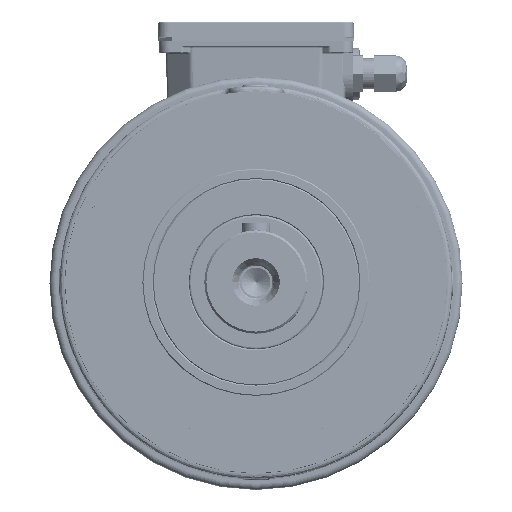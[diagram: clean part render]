
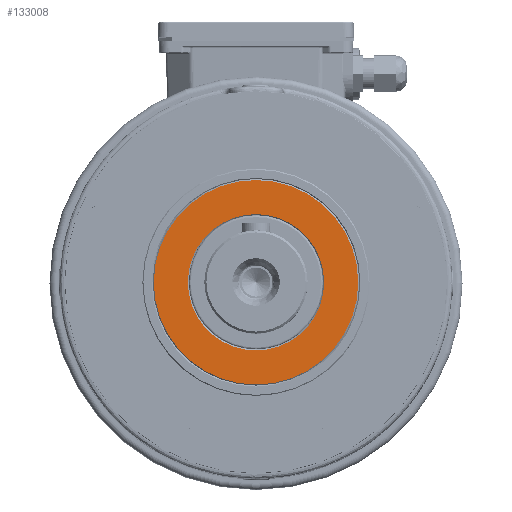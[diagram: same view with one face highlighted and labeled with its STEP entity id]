
A CAD part, top view. The second image highlights one B-rep face of the part: STEP entity #133008.
In plain terms, the highlighted planar face has unit normal (0, 0, 1) as drawn and (0, 0, -1) by its records, which use the part's own axes.
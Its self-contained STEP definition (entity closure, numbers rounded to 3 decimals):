
#19712 = DIRECTION ( 'NONE',  ( 1., 0., 0. ) ) ;
#19739 = DIRECTION ( 'NONE',  ( 0., 0., 1. ) ) ;
#19752 = CARTESIAN_POINT ( 'NONE',  ( 0., 0., 0. ) ) ;
#19810 = DIRECTION ( 'NONE',  ( -1., 0., 0. ) ) ;
#19818 = DIRECTION ( 'NONE',  ( 0., 0., -1. ) ) ;
#19830 = CARTESIAN_POINT ( 'NONE',  ( 0., 0., 0. ) ) ;
#21819 = DIRECTION ( 'NONE',  ( -1., 0., 0. ) ) ;
#21843 = CARTESIAN_POINT ( 'NONE',  ( 0., 0., 0. ) ) ;
#21896 = DIRECTION ( 'NONE',  ( 0., 0., -1. ) ) ;
#22430 = DIRECTION ( 'NONE',  ( 1., 0., 0. ) ) ;
#22490 = CARTESIAN_POINT ( 'NONE',  ( 0., 0., 0. ) ) ;
#22542 = DIRECTION ( 'NONE',  ( 0., 0., 1. ) ) ;
#28538 = VERTEX_POINT ( 'NONE', #148782 ) ;
#28590 = VERTEX_POINT ( 'NONE', #148810 ) ;
#28601 = VERTEX_POINT ( 'NONE', #148827 ) ;
#44238 = CARTESIAN_POINT ( 'NONE',  ( 33., 0., 0. ) ) ;
#46015 = ORIENTED_EDGE ( 'NONE', *, *, #157086, .F. ) ;
#46045 = ORIENTED_EDGE ( 'NONE', *, *, #157417, .F. ) ;
#46097 = ORIENTED_EDGE ( 'NONE', *, *, #157103, .F. ) ;
#46112 = ORIENTED_EDGE ( 'NONE', *, *, #157270, .F. ) ;
#93330 = FACE_BOUND ( 'NONE', #159507, .T. ) ;
#93449 = FACE_OUTER_BOUND ( 'NONE', #159740, .T. ) ;
#93491 = VERTEX_POINT ( 'NONE', #44238 ) ;
#95091 = AXIS2_PLACEMENT_3D ( 'NONE', #204684, #204772, #204788 ) ;
#132305 = AXIS2_PLACEMENT_3D ( 'NONE', #19752, #19739, #19712 ) ;
#132369 = AXIS2_PLACEMENT_3D ( 'NONE', #19830, #19818, #19810 ) ;
#132390 = AXIS2_PLACEMENT_3D ( 'NONE', #21843, #21896, #21819 ) ;
#132407 = AXIS2_PLACEMENT_3D ( 'NONE', #22490, #22542, #22430 ) ;
#133008 = ADVANCED_FACE ( 'NONE', ( #93330, #93449 ), #204753, .F. ) ;
#148782 = CARTESIAN_POINT ( 'NONE',  ( -49.5, 0., 0. ) ) ;
#148810 = CARTESIAN_POINT ( 'NONE',  ( -33., 0., 0. ) ) ;
#148827 = CARTESIAN_POINT ( 'NONE',  ( 49.5, 0., 0. ) ) ;
#157086 = EDGE_CURVE ( 'NONE', #28601, #28538, #213637, .T. ) ;
#157103 = EDGE_CURVE ( 'NONE', #93491, #28590, #213783, .T. ) ;
#157270 = EDGE_CURVE ( 'NONE', #28590, #93491, #214172, .T. ) ;
#157417 = EDGE_CURVE ( 'NONE', #28538, #28601, #214431, .T. ) ;
#159507 = EDGE_LOOP ( 'NONE', ( #46112, #46097 ) ) ;
#159740 = EDGE_LOOP ( 'NONE', ( #46015, #46045 ) ) ;
#204684 = CARTESIAN_POINT ( 'NONE',  ( -33., 0., 0. ) ) ;
#204753 = PLANE ( 'NONE',  #95091 ) ;
#204772 = DIRECTION ( 'NONE',  ( 0., 0., 1. ) ) ;
#204788 = DIRECTION ( 'NONE',  ( 0., -1., 0. ) ) ;
#213637 = CIRCLE ( 'NONE', #132305, 49.5 ) ;
#213783 = CIRCLE ( 'NONE', #132369, 33. ) ;
#214172 = CIRCLE ( 'NONE', #132390, 33. ) ;
#214431 = CIRCLE ( 'NONE', #132407, 49.5 ) ;
